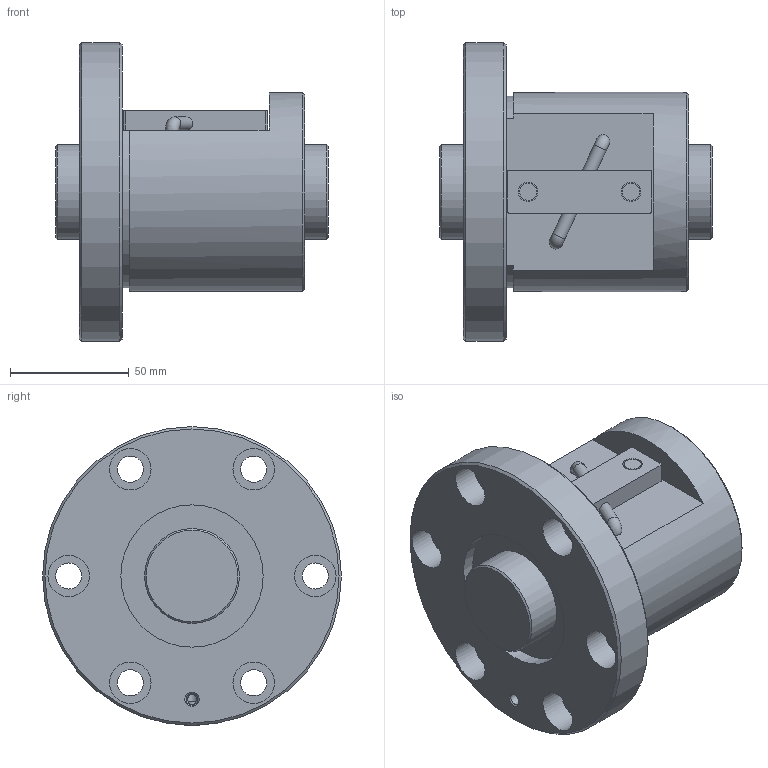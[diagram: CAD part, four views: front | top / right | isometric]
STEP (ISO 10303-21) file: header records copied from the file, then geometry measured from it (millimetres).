
FILE_DESCRIPTION(/* description */ ('STEP AP203'),/* implementation_level */ '2;1');
FILE_NAME(/* name */ 'BNF4012V-3.5RRG1+115LC0_000_rev',/* time_stamp */ '2024-08-06T08:41:16+02:00',/* author */ ('License CC BY-ND 4.0'),/* organization */ ('CADENAS'),/* preprocessor_version */ 'ST-DEVELOPER v19.3',/* originating_system */ 'PARTsolutions',/* authorisation */ ' ');
FILE_SCHEMA (('CONFIG_CONTROL_DESIGN'));
Length unit declared in the file: millimetre
Products named in the file (3): BNF4012V-3.5RRG1+115LC0_000_rev; BNF 4012-3.5RR000 Shaft; BNF 4012-3.5RR Nut
Assembly tree (2 placements, depth 2):
  BNF4012V-3.5RRG1+115LC0_000_rev
    BNF 4012-3.5RR000 Shaft
    BNF 4012-3.5RR Nut
Bounding box: 115 x 126 x 126 mm (x, y, z)
Volume: 601665.8 mm3; surface area: 86843.5 mm2
Topology: 2 solids, 2 shells, 69 faces, 148 edges, 96 vertices
Faces by surface type: cylinder 33, plane 27, cone 7, torus 2
Full cylindrical faces by diameter (mm): 4.5 x2, 4.917 x1, 5.598 x2, 7.2 x2, 8.2 x2, 11 x6, 17.5 x6, 40 x2, 60 x2, 84 x1, 126 x1
Entity records: 1755 total; most frequent: DIRECTION 312, CARTESIAN_POINT 296, ORIENTED_EDGE 200, AXIS2_PLACEMENT_3D 144, EDGE_LOOP 140, FACE_BOUND 140, EDGE_CURVE 100, VERTEX_POINT 86
